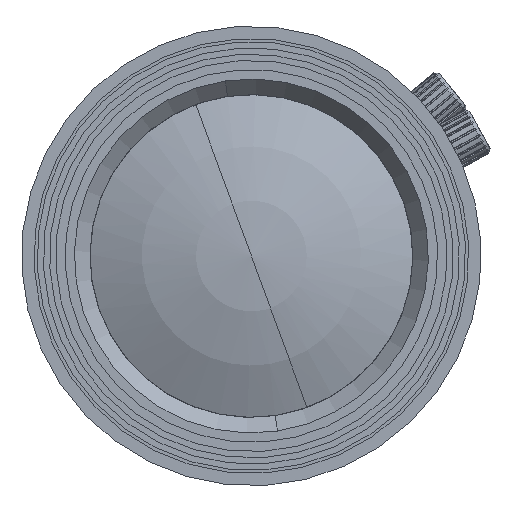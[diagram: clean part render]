
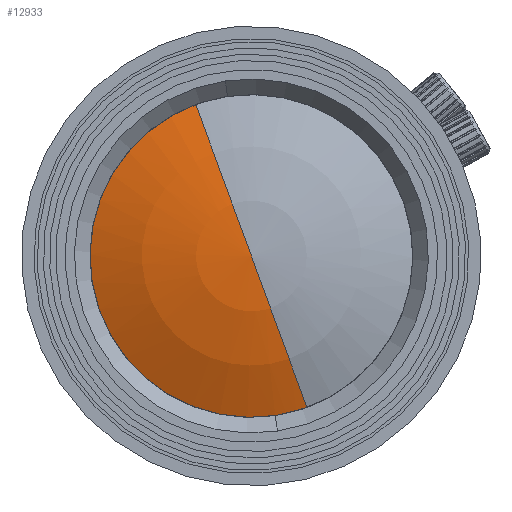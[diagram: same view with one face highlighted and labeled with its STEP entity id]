
A CAD part, left-side view. The second image highlights one B-rep face of the part: STEP entity #12933.
In plain terms, the highlighted spherical face has radius 30.475 mm.
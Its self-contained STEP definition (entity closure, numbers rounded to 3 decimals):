
#919 = DIRECTION ( 'NONE',  ( -1., 0., 0. ) ) ;
#946 = VERTEX_POINT ( 'NONE', #25693 ) ;
#1722 = CIRCLE ( 'NONE', #3824, 30.475 ) ;
#2354 = EDGE_LOOP ( 'NONE', ( #3981, #34867, #30787 ) ) ;
#2629 = VERTEX_POINT ( 'NONE', #14901 ) ;
#3824 = AXIS2_PLACEMENT_3D ( 'NONE', #31057, #11283, #919 ) ;
#3981 = ORIENTED_EDGE ( 'NONE', *, *, #26851, .T. ) ;
#5137 = AXIS2_PLACEMENT_3D ( 'NONE', #27228, #27446, #34472 ) ;
#10574 = VERTEX_POINT ( 'NONE', #24901 ) ;
#10778 = CARTESIAN_POINT ( 'NONE',  ( -42.357, 0., 0. ) ) ;
#11283 = DIRECTION ( 'NONE',  ( 0., 0.939, -0.344 ) ) ;
#12933 = ADVANCED_FACE ( 'NONE', ( #20867 ), #34252, .T. ) ;
#14901 = CARTESIAN_POINT ( 'NONE',  ( -42.357, 4.474, 12.198 ) ) ;
#15303 = CIRCLE ( 'NONE', #23053, 12.992 ) ;
#16168 = CIRCLE ( 'NONE', #43549, 12.992 ) ;
#20485 = DIRECTION ( 'NONE',  ( -1., 0., 0. ) ) ;
#20867 = FACE_OUTER_BOUND ( 'NONE', #2354, .T. ) ;
#20922 = DIRECTION ( 'NONE',  ( 0., 1., 0. ) ) ;
#23053 = AXIS2_PLACEMENT_3D ( 'NONE', #28143, #38473, #41549 ) ;
#24901 = CARTESIAN_POINT ( 'NONE',  ( -42.357, -4.474, -12.198 ) ) ;
#25693 = CARTESIAN_POINT ( 'NONE',  ( -42.357, -1.915, -12.85 ) ) ;
#26851 = EDGE_CURVE ( 'NONE', #2629, #946, #16168, .T. ) ;
#27228 = CARTESIAN_POINT ( 'NONE',  ( -14.79, 0., 0. ) ) ;
#27446 = DIRECTION ( 'NONE',  ( 1., 0., 0. ) ) ;
#28143 = CARTESIAN_POINT ( 'NONE',  ( -42.357, 0., 0. ) ) ;
#30787 = ORIENTED_EDGE ( 'NONE', *, *, #34667, .T. ) ;
#31057 = CARTESIAN_POINT ( 'NONE',  ( -14.79, 0., 0. ) ) ;
#34252 = SPHERICAL_SURFACE ( 'NONE', #5137, 30.475 ) ;
#34472 = DIRECTION ( 'NONE',  ( 0., -0.344, -0.939 ) ) ;
#34667 = EDGE_CURVE ( 'NONE', #10574, #2629, #1722, .T. ) ;
#34867 = ORIENTED_EDGE ( 'NONE', *, *, #37661, .T. ) ;
#37661 = EDGE_CURVE ( 'NONE', #946, #10574, #15303, .T. ) ;
#38473 = DIRECTION ( 'NONE',  ( -1., 0., 0. ) ) ;
#41549 = DIRECTION ( 'NONE',  ( 0., 1., 0. ) ) ;
#43549 = AXIS2_PLACEMENT_3D ( 'NONE', #10778, #20485, #20922 ) ;
